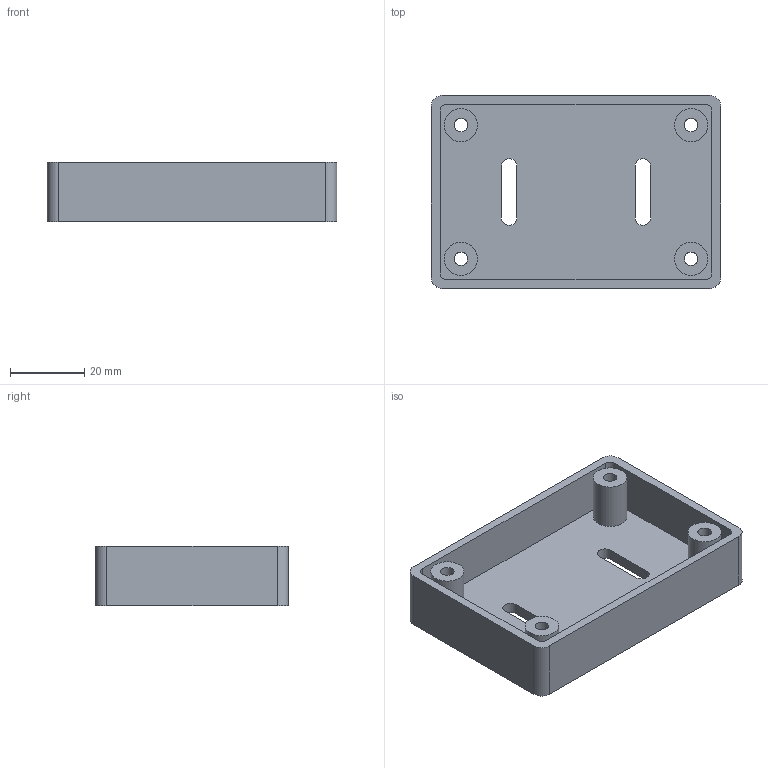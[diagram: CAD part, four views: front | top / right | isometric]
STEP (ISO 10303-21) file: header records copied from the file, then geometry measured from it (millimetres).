
FILE_DESCRIPTION(('Open CASCADE Model'),'2;1');
FILE_NAME('Open CASCADE Shape Model','2026-09-20T04:25:33',('Author'),( 'Open CASCADE'),'Open CASCADE STEP processor 7.9','Open CASCADE 7.9' ,'Unknown');
FILE_SCHEMA(('AUTOMOTIVE_DESIGN { 1 0 10303 214 1 1 1 1 }'));
Length unit declared in the file: millimetre
Products named in the file (1): Open CASCADE STEP translator 7.9 12
Bounding box: 78 x 52 x 16 mm (x, y, z)
Volume: 22118.8 mm3; surface area: 17334.5 mm2
Topology: 1 solids, 1 shells, 39 faces, 96 edges, 64 vertices
Faces by surface type: cylinder 20, plane 19
Full cylindrical faces by diameter (mm): 3.6 x4, 9 x4
Entity records: 2478 total; most frequent: CARTESIAN_POINT 492, DIRECTION 378, ORIENTED_EDGE 192, LINE 192, VECTOR 192, PCURVE 192, DEFINITIONAL_REPRESENTATION 192, EDGE_CURVE 96
